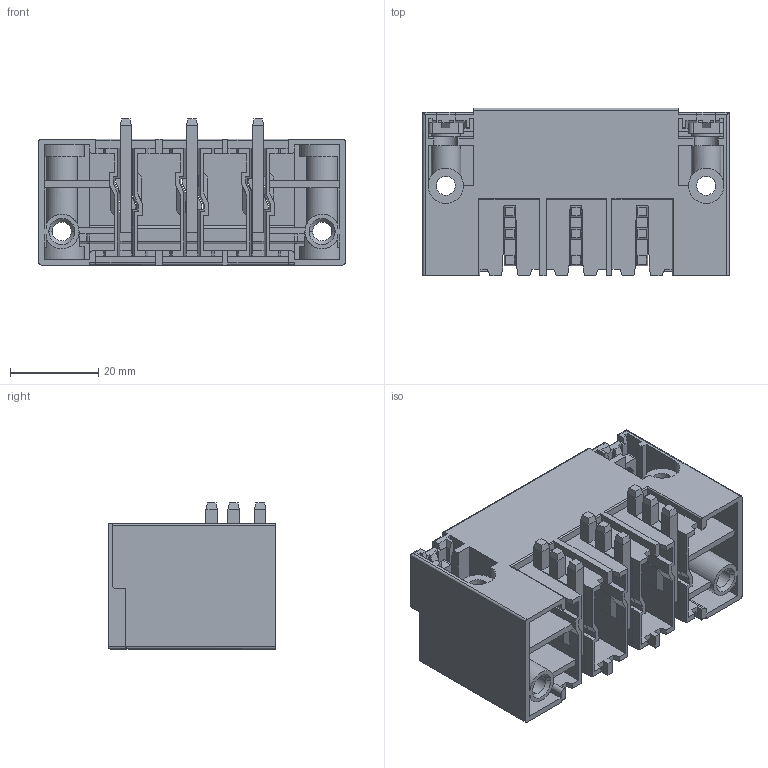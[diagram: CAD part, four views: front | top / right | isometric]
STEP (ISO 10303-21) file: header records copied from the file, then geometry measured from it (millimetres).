
FILE_DESCRIPTION((''),'2;1');
FILE_NAME('3PIN','2019-11-27T',('renkang.li'),(''),'CREO PARAMETRIC BY PTC INC, 2016260','CREO PARAMETRIC BY PTC INC, 2016260','');
FILE_SCHEMA(('CONFIG_CONTROL_DESIGN'));
Length unit declared in the file: millimetre
Products named in the file (1): 3PIN
Bounding box: 69.4 x 38 x 33.1 mm (x, y, z)
Volume: 26446.3 mm3; surface area: 35875 mm2
Topology: 1 solids, 1 shells, 1010 faces, 2790 edges, 1788 vertices
Faces by surface type: plane 853, cylinder 127, cone 20, bspline 8, sphere 2
Entity records: 33730 total; most frequent: CARTESIAN_POINT 7906, ORIENTED_EDGE 5576, DIRECTION 4990, EDGE_CURVE 2788, VECTOR 2450, LINE 2450, VERTEX_POINT 1788, AXIS2_PLACEMENT_3D 1270
